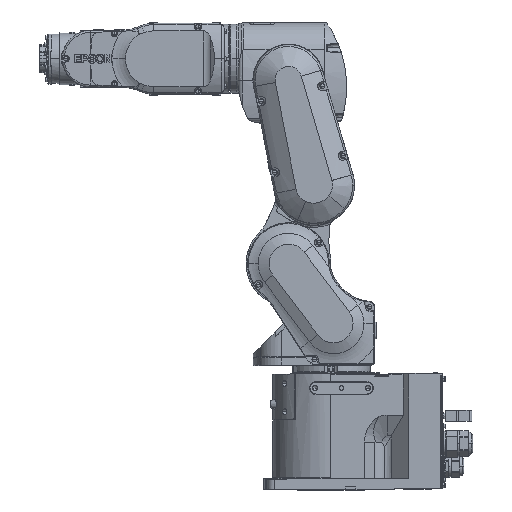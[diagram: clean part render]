
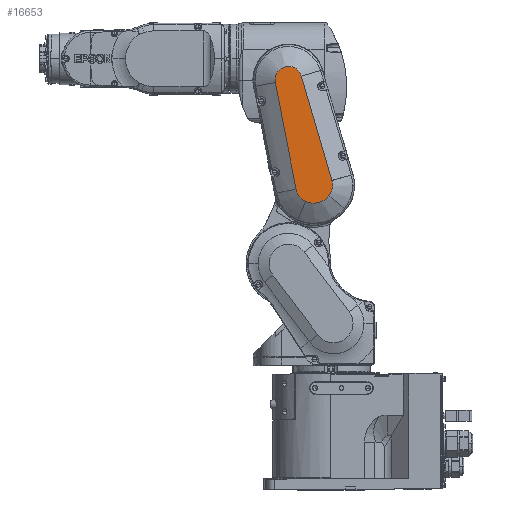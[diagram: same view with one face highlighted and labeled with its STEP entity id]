
A CAD part, top view. The second image highlights one B-rep face of the part: STEP entity #16653.
In plain terms, the highlighted planar face has unit normal (0, 0, 1).
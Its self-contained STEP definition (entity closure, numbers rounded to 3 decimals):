
#55 = CARTESIAN_POINT ( 'NONE',  ( 10.716, 105.265, 110. ) ) ;
#3058 = CARTESIAN_POINT ( 'NONE',  ( 61.449, 117.576, 110. ) ) ;
#6267 = LINE ( 'NONE', #53809, #65405 ) ;
#8531 = AXIS2_PLACEMENT_3D ( 'NONE', #64673, #31168, #137183 ) ;
#11306 = CARTESIAN_POINT ( 'NONE',  ( -18.653, 256.374, 110. ) ) ;
#13919 = VERTEX_POINT ( 'NONE', #11306 ) ;
#14098 = DIRECTION ( 'NONE',  ( 0.982, 0.191, 0. ) ) ;
#16155 = CARTESIAN_POINT ( 'NONE',  ( 10.716, 105.265, 110. ) ) ;
#16653 = ADVANCED_FACE ( 'NONE', ( #134880 ), #102078, .F. ) ;
#16882 = ORIENTED_EDGE ( 'NONE', *, *, #118972, .T. ) ;
#17670 = DIRECTION ( 'NONE',  ( -0.407, -0.914, 0. ) ) ;
#18522 = ORIENTED_EDGE ( 'NONE', *, *, #86431, .T. ) ;
#19259 = EDGE_CURVE ( 'NONE', #113798, #146034, #36739, .T. ) ;
#22339 = VERTEX_POINT ( 'NONE', #22855 ) ;
#22361 = DIRECTION ( 'NONE',  ( 0.96, 0.281, 0. ) ) ;
#22855 = CARTESIAN_POINT ( 'NONE',  ( 57.085, 95.777, 110. ) ) ;
#23631 = ORIENTED_EDGE ( 'NONE', *, *, #100642, .T. ) ;
#23695 = ORIENTED_EDGE ( 'NONE', *, *, #19259, .F. ) ;
#25330 = DIRECTION ( 'NONE',  ( 0., 0., 1. ) ) ;
#25845 = ORIENTED_EDGE ( 'NONE', *, *, #35961, .T. ) ;
#31168 = DIRECTION ( 'NONE',  ( 0., 0., -1. ) ) ;
#32620 = CARTESIAN_POINT ( 'NONE',  ( 18.224, 265.344, 110. ) ) ;
#35961 = EDGE_CURVE ( 'NONE', #113798, #61055, #46124, .T. ) ;
#36739 = LINE ( 'NONE', #55, #51125 ) ;
#41029 = VERTEX_POINT ( 'NONE', #101119 ) ;
#43484 = CIRCLE ( 'NONE', #130634, 27.491 ) ;
#43551 = CARTESIAN_POINT ( 'NONE',  ( 47.041, 166.832, 110. ) ) ;
#44673 = CIRCLE ( 'NONE', #151599, 23.991 ) ;
#46124 = CIRCLE ( 'NONE', #80927, 23.991 ) ;
#51125 = VECTOR ( 'NONE', #14098, 1000. ) ;
#53809 = CARTESIAN_POINT ( 'NONE',  ( -18.642, 256.376, 110. ) ) ;
#55173 = VERTEX_POINT ( 'NONE', #3058 ) ;
#56765 = VERTEX_POINT ( 'NONE', #72724 ) ;
#57646 = VECTOR ( 'NONE', #64288, 1000. ) ;
#58273 = DIRECTION ( 'NONE',  ( 0.778, -0.628, 0. ) ) ;
#60720 = DIRECTION ( 'NONE',  ( 0.96, 0.281, 0. ) ) ;
#61055 = VERTEX_POINT ( 'NONE', #132519 ) ;
#64288 = DIRECTION ( 'NONE',  ( 0.191, -0.982, 0. ) ) ;
#64673 = CARTESIAN_POINT ( 'NONE',  ( 24.508, 87.926, 110. ) ) ;
#65405 = VECTOR ( 'NONE', #148913, 1000. ) ;
#66673 = CIRCLE ( 'NONE', #123950, 18.991 ) ;
#72724 = CARTESIAN_POINT ( 'NONE',  ( 61.441, 117.574, 110. ) ) ;
#74525 = CARTESIAN_POINT ( 'NONE',  ( 35.69, 113.04, 110. ) ) ;
#74656 = DIRECTION ( 'NONE',  ( 0., 0., 1. ) ) ;
#78830 = ORIENTED_EDGE ( 'NONE', *, *, #90202, .T. ) ;
#80107 = EDGE_LOOP ( 'NONE', ( #91755, #16882, #23695, #25845, #18522, #129214, #23631, #115593, #78830 ) ) ;
#80927 = AXIS2_PLACEMENT_3D ( 'NONE', #84517, #25330, #144590 ) ;
#81618 = CARTESIAN_POINT ( 'NONE',  ( 38.414, 110.842, 110. ) ) ;
#84517 = CARTESIAN_POINT ( 'NONE',  ( 34.266, 109.843, 110. ) ) ;
#86431 = EDGE_CURVE ( 'NONE', #61055, #22339, #43484, .T. ) ;
#90202 = EDGE_CURVE ( 'NONE', #125451, #41029, #66673, .T. ) ;
#91042 = EDGE_CURVE ( 'NONE', #22339, #56765, #44673, .T. ) ;
#91755 = ORIENTED_EDGE ( 'NONE', *, *, #120665, .T. ) ;
#93256 = CARTESIAN_POINT ( 'NONE',  ( 18.224, 265.344, 110. ) ) ;
#100642 = EDGE_CURVE ( 'NONE', #56765, #55173, #140870, .T. ) ;
#101047 = DIRECTION ( 'NONE',  ( 0., 0., 1. ) ) ;
#101119 = CARTESIAN_POINT ( 'NONE',  ( -18.642, 256.376, 110. ) ) ;
#102078 = PLANE ( 'NONE',  #8531 ) ;
#102478 = LINE ( 'NONE', #126665, #57646 ) ;
#107517 = CARTESIAN_POINT ( 'NONE',  ( 0., 260., 110. ) ) ;
#108845 = EDGE_CURVE ( 'NONE', #55173, #125451, #117923, .T. ) ;
#110317 = CARTESIAN_POINT ( 'NONE',  ( 10.719, 105.265, 110. ) ) ;
#113798 = VERTEX_POINT ( 'NONE', #16155 ) ;
#115593 = ORIENTED_EDGE ( 'NONE', *, *, #108845, .T. ) ;
#116770 = DIRECTION ( 'NONE',  ( 0., 0., 1. ) ) ;
#117923 = B_SPLINE_CURVE_WITH_KNOTS ( 'NONE', 3,
 ( #139411, #43551, #127735, #32620 ),
 .UNSPECIFIED., .F., .F.,
 ( 4, 4 ),
 ( 0., 1. ),
 .UNSPECIFIED. ) ;
#118972 = EDGE_CURVE ( 'NONE', #13919, #146034, #102478, .T. ) ;
#120665 = EDGE_CURVE ( 'NONE', #41029, #13919, #6267, .T. ) ;
#123950 = AXIS2_PLACEMENT_3D ( 'NONE', #107517, #74656, #60720 ) ;
#125451 = VERTEX_POINT ( 'NONE', #93256 ) ;
#126665 = CARTESIAN_POINT ( 'NONE',  ( -18.653, 256.374, 110. ) ) ;
#127735 = CARTESIAN_POINT ( 'NONE',  ( 32.632, 216.088, 110. ) ) ;
#129169 = CARTESIAN_POINT ( 'NONE',  ( 61.441, 117.574, 110. ) ) ;
#129214 = ORIENTED_EDGE ( 'NONE', *, *, #91042, .T. ) ;
#130634 = AXIS2_PLACEMENT_3D ( 'NONE', #74525, #101047, #17670 ) ;
#132519 = CARTESIAN_POINT ( 'NONE',  ( 24.508, 87.926, 110. ) ) ;
#134880 = FACE_OUTER_BOUND ( 'NONE', #80107, .T. ) ;
#137183 = DIRECTION ( 'NONE',  ( 0., -1., 0. ) ) ;
#139411 = CARTESIAN_POINT ( 'NONE',  ( 61.449, 117.576, 110. ) ) ;
#140870 = LINE ( 'NONE', #129169, #148892 ) ;
#144590 = DIRECTION ( 'NONE',  ( -0.982, -0.191, 0. ) ) ;
#146034 = VERTEX_POINT ( 'NONE', #110317 ) ;
#148892 = VECTOR ( 'NONE', #22361, 1000. ) ;
#148913 = DIRECTION ( 'NONE',  ( -0.982, -0.191, 0. ) ) ;
#151599 = AXIS2_PLACEMENT_3D ( 'NONE', #81618, #116770, #58273 ) ;
